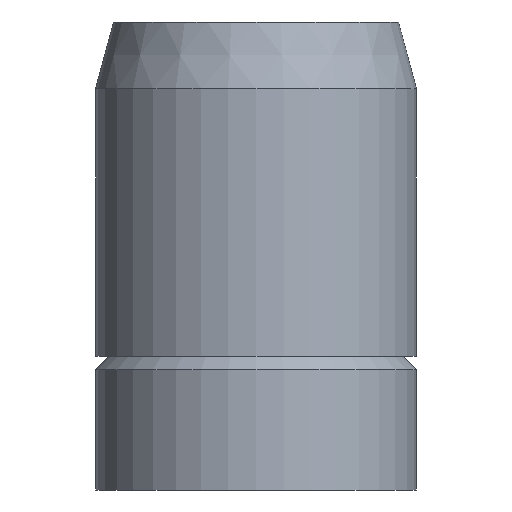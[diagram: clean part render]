
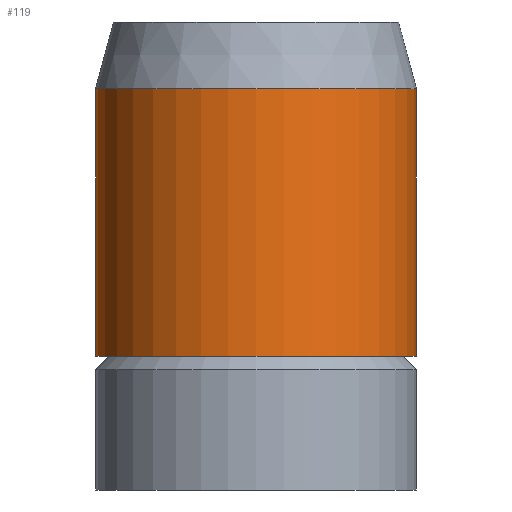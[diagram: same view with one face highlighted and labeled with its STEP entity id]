
A CAD part, front view. The second image highlights one B-rep face of the part: STEP entity #119.
In plain terms, the highlighted cylindrical face has radius 12 mm (diameter 24 mm), a partial arc.
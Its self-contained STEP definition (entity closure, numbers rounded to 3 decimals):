
#119=ADVANCED_FACE('',(#136),#128,.T.);
#128=CYLINDRICAL_SURFACE('',#309,12.);
#136=FACE_OUTER_BOUND('',#150,.T.);
#150=EDGE_LOOP('',(#207,#208,#209,#210));
#166=CIRCLE('',#304,12.);
#168=CIRCLE('',#308,12.);
#207=ORIENTED_EDGE('',*,*,#257,.F.);
#208=ORIENTED_EDGE('',*,*,#256,.T.);
#209=ORIENTED_EDGE('',*,*,#259,.T.);
#210=ORIENTED_EDGE('',*,*,#260,.F.);
#233=VERTEX_POINT('',#420);
#234=VERTEX_POINT('',#421);
#235=VERTEX_POINT('',#425);
#236=VERTEX_POINT('',#427);
#256=EDGE_CURVE('',#234,#233,#166,.T.);
#257=EDGE_CURVE('',#234,#235,#271,.T.);
#259=EDGE_CURVE('',#233,#236,#272,.T.);
#260=EDGE_CURVE('',#235,#236,#168,.T.);
#271=LINE('',#424,#281);
#272=LINE('',#428,#282);
#281=VECTOR('',#363,1.);
#282=VECTOR('',#366,1.);
#304=AXIS2_PLACEMENT_3D('',#422,#359,#360);
#308=AXIS2_PLACEMENT_3D('',#430,#369,#370);
#309=AXIS2_PLACEMENT_3D('',#431,#371,#372);
#359=DIRECTION('',(0.,0.,1.));
#360=DIRECTION('',(0.,1.,0.));
#363=DIRECTION('',(0.,0.,1.));
#366=DIRECTION('',(0.,0.,1.));
#369=DIRECTION('',(0.,0.,1.));
#370=DIRECTION('',(0.,1.,0.));
#371=DIRECTION('',(0.,0.,1.));
#372=DIRECTION('',(0.,-1.,0.));
#420=CARTESIAN_POINT('',(12.,0.,10.));
#421=CARTESIAN_POINT('',(-12.,0.,10.));
#422=CARTESIAN_POINT('',(0.,0.,10.));
#424=CARTESIAN_POINT('',(-12.,0.,30.));
#425=CARTESIAN_POINT('',(-12.,0.,30.));
#427=CARTESIAN_POINT('',(12.,0.,30.));
#428=CARTESIAN_POINT('',(12.,0.,30.));
#430=CARTESIAN_POINT('',(0.,0.,30.));
#431=CARTESIAN_POINT('',(0.,0.,10.));
